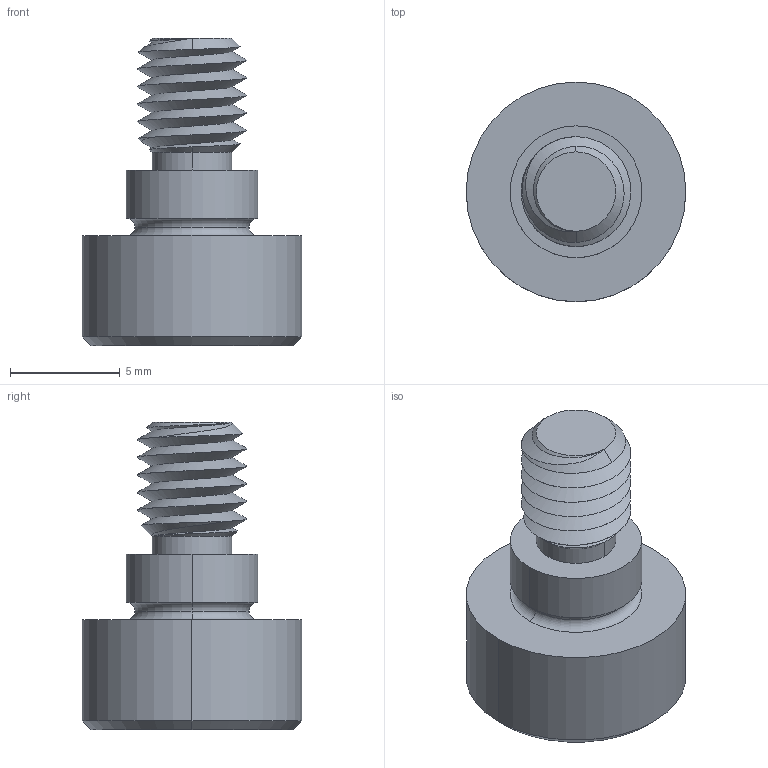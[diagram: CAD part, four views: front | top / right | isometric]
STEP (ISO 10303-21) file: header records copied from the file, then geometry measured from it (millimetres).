
FILE_DESCRIPTION (( 'STEP AP203' ), '1' );
FILE_NAME ('P0130.060-003-B2.step', '2021-11-09T21:20:07', ( '' ), ( '' ), 'SwSTEP 2.0', 'SolidWorks 2019', '' );
FILE_SCHEMA (( 'CONFIG_CONTROL_DESIGN' ));
Length unit declared in the file: millimetre
Products named in the file (1): P0130.060-003-B2
Bounding box: 10 x 10 x 14 mm (x, y, z)
Volume: 528 mm3; surface area: 544.1 mm2
Topology: 1 solids, 1 shells, 53 faces, 121 edges, 71 vertices
Faces by surface type: cylinder 17, plane 16, cone 14, torus 4, bspline 2
Entity records: 2367 total; most frequent: CARTESIAN_POINT 1186, ORIENTED_EDGE 238, DIRECTION 226, EDGE_CURVE 119, AXIS2_PLACEMENT_3D 92, VERTEX_POINT 71, EDGE_LOOP 56, ADVANCED_FACE 53
